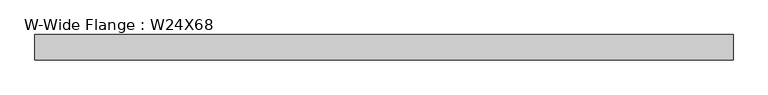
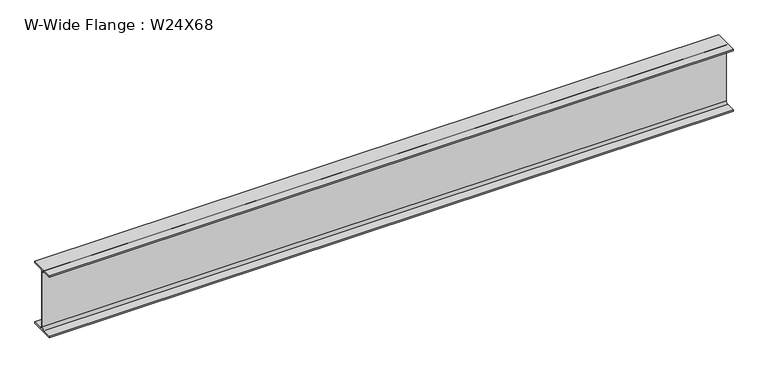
"""IFC4 building model written with IfcOpenShell, lengths in millimetres: beam geometry, W-Wide Flange : W24X68."""

from ifc_helpers import new_model, si_unit, point, frame, frame_2d, origin, place, context, project, spatial, polyline, circle_curve, trimmed, segment, composite_curve, outline, extrude, source, transform, mapped, element, save


def w_wide_flange_w24x68_6e6fe96a(model_context):
    return source(origin(), model_context, "Body", "SweptSolid", [
        extrude(outline(composite_curve([segment(polyline([(113.919, -286.131), (113.919, -300.99), (-113.919, -300.99), (-113.919, -286.131), (-28.5115, -286.131)]), True, "CONTINUOUS"), segment(trimmed(circle_curve(frame_2d((-28.5115, -262.89)), 23.241), [point((-28.5115, -286.131))], [point((-5.2705, -262.89))], True, "CARTESIAN"), True, "CONTINUOUS"), segment(polyline([(-5.2705, -262.89), (-5.2705, 262.89)]), True, "CONTINUOUS"), segment(trimmed(circle_curve(frame_2d((-28.5115, 262.89)), 23.241), [point((-5.2705, 262.89))], [point((-28.5115, 286.131))], True, "CARTESIAN"), True, "CONTINUOUS"), segment(polyline([(-28.5115, 286.131), (-113.919, 286.131), (-113.919, 300.99), (113.919, 300.99), (113.919, 286.131), (28.5115, 286.131)]), True, "CONTINUOUS"), segment(trimmed(circle_curve(frame_2d((28.5115, 262.89)), 23.241), [point((28.5115, 286.131))], [point((5.2705, 262.89))], True, "CARTESIAN"), True, "CONTINUOUS"), segment(polyline([(5.2705, 262.89), (5.2705, -262.89)]), True, "CONTINUOUS"), segment(trimmed(circle_curve(frame_2d((28.5115, -262.89)), 23.241), [point((5.2705, -262.89))], [point((28.5115, -286.131))], True, "CARTESIAN"), True, "CONTINUOUS"), segment(polyline([(28.5115, -286.131), (113.919, -286.131)]), True, "CONTINUOUS")], self_intersect=False)), frame((-3133.4333589, 0.0, 0.0), z_axis=(1.0, 0.0, 0.0), x_axis=(0.0, 1.0, 0.0)), (0.0, 0.0, 1.0), 6271.26),
    ])


if __name__ == "__main__":
    model = new_model("IFC4")
    model_context = context("Model", 3, world=origin())
    ifc_project = project(units=[si_unit("LENGTHUNIT", "METRE", prefix="MILLI")], contexts=[model_context])
    site = spatial("IfcSite", under=ifc_project)
    building = spatial("IfcBuilding", under=site)
    placement = place(None, origin())
    w_wide_flange_w24x68_shape = w_wide_flange_w24x68_6e6fe96a(model_context)
    element("IfcBeam", 1, ObjectType="W-Wide Flange : W24X68", at=placement, inside=building, context=model_context, shape_type="MappedRepresentation", body=[
        mapped(w_wide_flange_w24x68_shape, transform((0.0, 0.0, 0.0), x_axis=(1.0, 0.0, 0.0), y_axis=(0.0, 1.0, 0.0), z_axis=(0.0, 0.0, 1.0))),
    ])
    save(model, "model.ifc")
